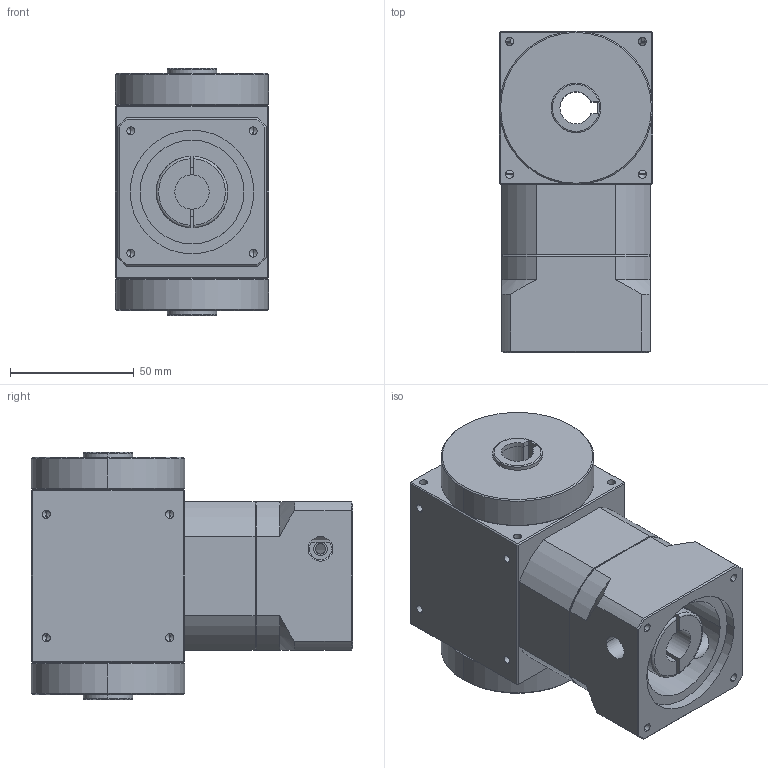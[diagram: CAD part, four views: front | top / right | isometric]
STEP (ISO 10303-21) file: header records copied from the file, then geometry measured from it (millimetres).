
FILE_DESCRIPTION (( 'STEP AP203' ), '1' );
FILE_NAME ('KHT60-H-L1£r50PCD£r70M4.STEP', '2014-03-24T05:09:26', ( 'KELLY' ), ( '' ), 'SwSTEP 2.0', 'SolidWorks 2012', '' );
FILE_SCHEMA (( 'CONFIG_CONTROL_DESIGN' ));
Length unit declared in the file: millimetre
Products named in the file (1): KHT60-H-L1｣r50PCD｣r70M4
Bounding box: 62 x 130 x 100 mm (x, y, z)
Volume: 520394.6 mm3; surface area: 80252.9 mm2
Topology: 5 solids, 5 shells, 268 faces, 680 edges, 382 vertices
Faces by surface type: cylinder 113, plane 79, cone 68, torus 8
Entity records: 8592 total; most frequent: CARTESIAN_POINT 2346, DIRECTION 1294, ORIENTED_EDGE 1264, EDGE_CURVE 632, AXIS2_PLACEMENT_3D 493, VERTEX_POINT 382, EDGE_LOOP 318, LINE 308
